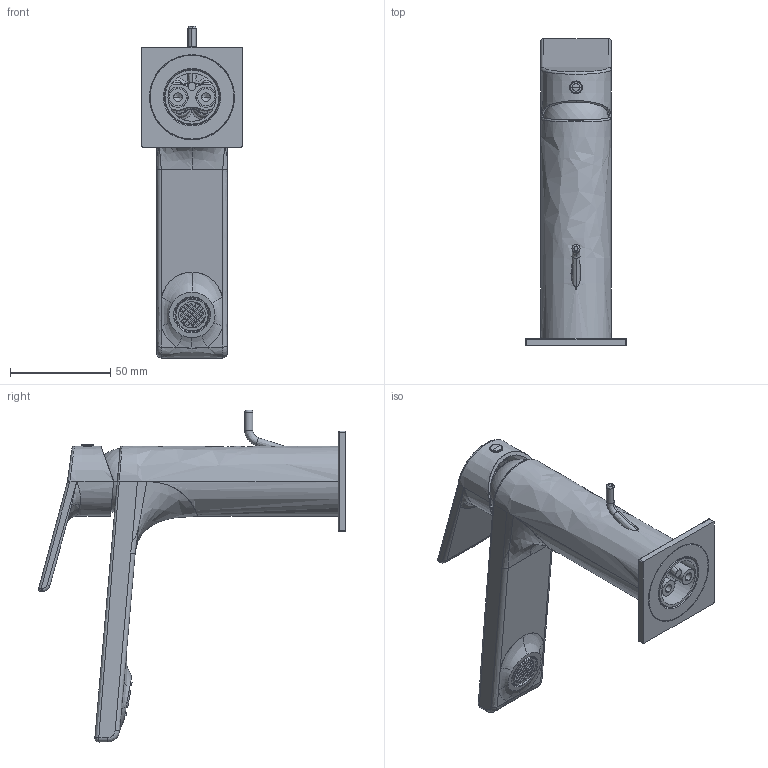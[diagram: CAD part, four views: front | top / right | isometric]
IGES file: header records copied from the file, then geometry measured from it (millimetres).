
Start section:  PTC IGES file: 74054_sw0001.igs
Global section: file name: 74054_sw0001.igs; native system: Creo Parametric by PTC Inc.; preprocessor: 2022014; author: volponeff; organization: Unknown; date: 20250709.160304; units: millimetre
Bounding box: 50 x 152.87 x 165.47 mm (x, y, z)
Surface area: 79844.2 mm2 (no closed solid volume)
Topology: 0 solids, 0 shells, 1418 faces, 7249 edges, 7174 vertices
Faces by surface type: revolution 775, bspline 643
